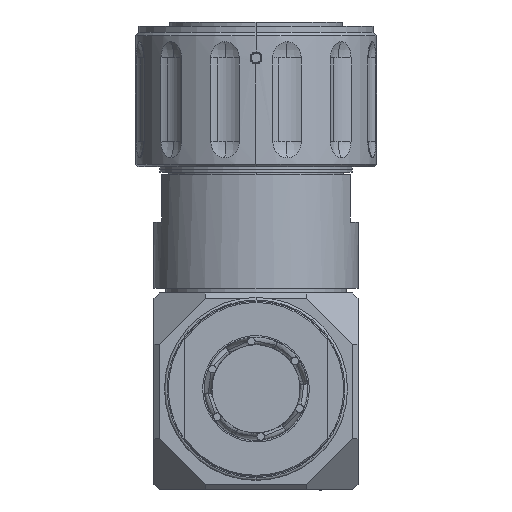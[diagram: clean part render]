
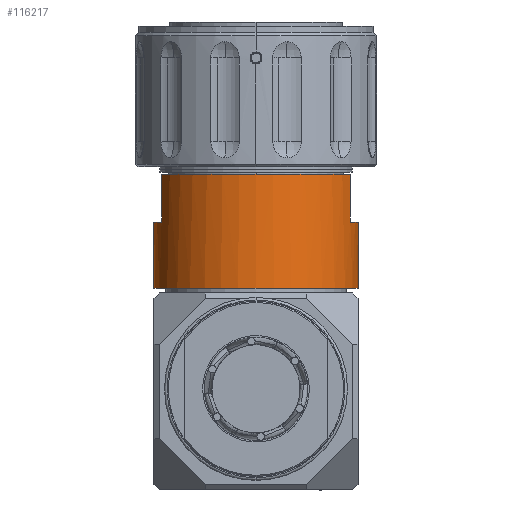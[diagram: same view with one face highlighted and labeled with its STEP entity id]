
A CAD part, front view. The second image highlights one B-rep face of the part: STEP entity #116217.
In plain terms, the highlighted cylindrical face has radius 20.447 mm (diameter 40.894 mm), a partial arc.
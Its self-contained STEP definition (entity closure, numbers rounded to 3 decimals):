
#1159 = DIRECTION ( 'NONE',  ( 1., 0., 0. ) ) ;
#2277 = DIRECTION ( 'NONE',  ( 0., 0., -1. ) ) ;
#2978 = CARTESIAN_POINT ( 'NONE',  ( 0., 0., -30.328 ) ) ;
#6372 = ORIENTED_EDGE ( 'NONE', *, *, #20735, .F. ) ;
#7309 = EDGE_LOOP ( 'NONE', ( #105522, #109479, #78989, #13161, #105376, #6372, #15101, #39629 ) ) ;
#11717 = DIRECTION ( 'NONE',  ( 0., 0., -1. ) ) ;
#12791 = LINE ( 'NONE', #97143, #71331 ) ;
#13161 = ORIENTED_EDGE ( 'NONE', *, *, #26205, .F. ) ;
#14347 = CARTESIAN_POINT ( 'NONE',  ( 0., 0., -30.328 ) ) ;
#14995 = CARTESIAN_POINT ( 'NONE',  ( 18.796, -8.049, -39.853 ) ) ;
#15101 = ORIENTED_EDGE ( 'NONE', *, *, #106300, .T. ) ;
#17970 = CARTESIAN_POINT ( 'NONE',  ( 0., 0., -53.01 ) ) ;
#18543 = CARTESIAN_POINT ( 'NONE',  ( 0., 0., -39.853 ) ) ;
#20735 = EDGE_CURVE ( 'NONE', #37974, #21872, #36527, .T. ) ;
#21872 = VERTEX_POINT ( 'NONE', #14995 ) ;
#24003 = LINE ( 'NONE', #34550, #39823 ) ;
#25819 = AXIS2_PLACEMENT_3D ( 'NONE', #17970, #2277, #75041 ) ;
#26205 = EDGE_CURVE ( 'NONE', #91043, #80981, #24003, .T. ) ;
#28616 = VERTEX_POINT ( 'NONE', #81936 ) ;
#29672 = DIRECTION ( 'NONE',  ( 0., 0., -1. ) ) ;
#29706 = CARTESIAN_POINT ( 'NONE',  ( 0., 0., -39.853 ) ) ;
#29838 = AXIS2_PLACEMENT_3D ( 'NONE', #2978, #29672, #68729 ) ;
#32516 = EDGE_CURVE ( 'NONE', #80981, #33056, #73381, .T. ) ;
#32629 = EDGE_CURVE ( 'NONE', #28616, #89045, #12791, .T. ) ;
#33056 = VERTEX_POINT ( 'NONE', #102125 ) ;
#34550 = CARTESIAN_POINT ( 'NONE',  ( 20.447, 0., -30.328 ) ) ;
#36527 = LINE ( 'NONE', #74360, #44349 ) ;
#37974 = VERTEX_POINT ( 'NONE', #76273 ) ;
#39629 = ORIENTED_EDGE ( 'NONE', *, *, #32629, .F. ) ;
#39657 = EDGE_CURVE ( 'NONE', #85688, #28616, #39814, .T. ) ;
#39814 = CIRCLE ( 'NONE', #109129, 20.447 ) ;
#39823 = VECTOR ( 'NONE', #120117, 1000. ) ;
#44349 = VECTOR ( 'NONE', #112187, 1000. ) ;
#53685 = AXIS2_PLACEMENT_3D ( 'NONE', #18543, #102897, #1159 ) ;
#59681 = DIRECTION ( 'NONE',  ( 0., 0., -1. ) ) ;
#61929 = EDGE_CURVE ( 'NONE', #85688, #33056, #67563, .T. ) ;
#67563 = LINE ( 'NONE', #88003, #68707 ) ;
#68707 = VECTOR ( 'NONE', #11717, 1000. ) ;
#68729 = DIRECTION ( 'NONE',  ( 1., 0., 0. ) ) ;
#71331 = VECTOR ( 'NONE', #77938, 1000. ) ;
#72976 = CARTESIAN_POINT ( 'NONE',  ( 20.447, 0., -39.853 ) ) ;
#73381 = CIRCLE ( 'NONE', #25819, 20.447 ) ;
#74360 = CARTESIAN_POINT ( 'NONE',  ( 18.796, -8.049, -30.328 ) ) ;
#75041 = DIRECTION ( 'NONE',  ( 1., 0., 0. ) ) ;
#76273 = CARTESIAN_POINT ( 'NONE',  ( 18.796, -8.049, -30.328 ) ) ;
#77938 = DIRECTION ( 'NONE',  ( 0., 0., 1. ) ) ;
#78989 = ORIENTED_EDGE ( 'NONE', *, *, #32516, .F. ) ;
#80981 = VERTEX_POINT ( 'NONE', #108111 ) ;
#81936 = CARTESIAN_POINT ( 'NONE',  ( -18.796, -8.049, -39.853 ) ) ;
#82107 = CARTESIAN_POINT ( 'NONE',  ( -18.796, -8.049, -30.328 ) ) ;
#83321 = CIRCLE ( 'NONE', #29838, 20.447 ) ;
#85688 = VERTEX_POINT ( 'NONE', #94496 ) ;
#88003 = CARTESIAN_POINT ( 'NONE',  ( -20.447, 0., -30.328 ) ) ;
#88820 = CYLINDRICAL_SURFACE ( 'NONE', #121093, 20.447 ) ;
#89045 = VERTEX_POINT ( 'NONE', #82107 ) ;
#91043 = VERTEX_POINT ( 'NONE', #72976 ) ;
#94496 = CARTESIAN_POINT ( 'NONE',  ( -20.447, 0., -39.853 ) ) ;
#97143 = CARTESIAN_POINT ( 'NONE',  ( -18.796, -8.049, -30.328 ) ) ;
#99314 = FACE_OUTER_BOUND ( 'NONE', #7309, .T. ) ;
#102125 = CARTESIAN_POINT ( 'NONE',  ( -20.447, 0., -53.01 ) ) ;
#102897 = DIRECTION ( 'NONE',  ( 0., 0., 1. ) ) ;
#104767 = DIRECTION ( 'NONE',  ( 0., 0., 1. ) ) ;
#104898 = EDGE_CURVE ( 'NONE', #21872, #91043, #118977, .T. ) ;
#105376 = ORIENTED_EDGE ( 'NONE', *, *, #104898, .F. ) ;
#105522 = ORIENTED_EDGE ( 'NONE', *, *, #39657, .F. ) ;
#106300 = EDGE_CURVE ( 'NONE', #37974, #89045, #83321, .T. ) ;
#108111 = CARTESIAN_POINT ( 'NONE',  ( 20.447, 0., -53.01 ) ) ;
#109129 = AXIS2_PLACEMENT_3D ( 'NONE', #29706, #104767, #122142 ) ;
#109479 = ORIENTED_EDGE ( 'NONE', *, *, #61929, .T. ) ;
#112187 = DIRECTION ( 'NONE',  ( 0., 0., -1. ) ) ;
#116217 = ADVANCED_FACE ( 'NONE', ( #99314 ), #88820, .T. ) ;
#118977 = CIRCLE ( 'NONE', #53685, 20.447 ) ;
#119152 = DIRECTION ( 'NONE',  ( 1., 0., 0. ) ) ;
#120117 = DIRECTION ( 'NONE',  ( 0., 0., -1. ) ) ;
#121093 = AXIS2_PLACEMENT_3D ( 'NONE', #14347, #59681, #119152 ) ;
#122142 = DIRECTION ( 'NONE',  ( 0., 1., 0. ) ) ;
